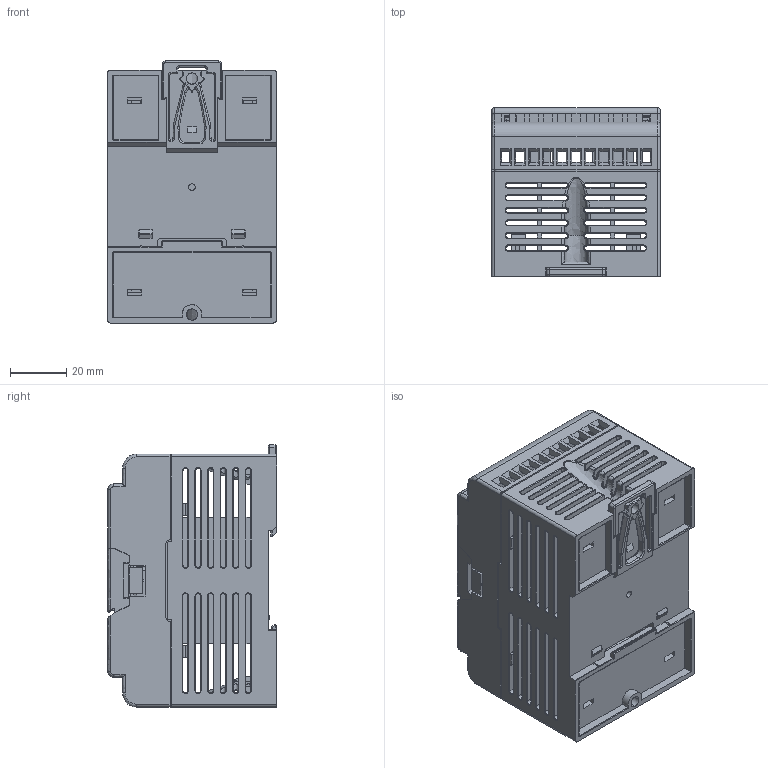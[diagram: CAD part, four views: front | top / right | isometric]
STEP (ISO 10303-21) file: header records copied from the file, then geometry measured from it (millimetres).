
FILE_DESCRIPTION(/* description */ (''),/* implementation_level */ '2;1');
FILE_NAME(/* name */ 'b1-14m-standard-20210609',/* time_stamp */ '2021-12-10T04:11:38+08:00',/* author */ (''),/* organization */ (''),/* preprocessor_version */ 'ST-DEVELOPER v16.5',/* originating_system */ '',/* authorisation */ '');
FILE_SCHEMA (('AUTOMOTIVE_DESIGN'));
Products named in the file (7): Document; B1-14M-DOWN_COVER_ASM; B1-14M-DOWN_COVER; JOIN; CV_PS; B1-14M-IO2_COVER; B1-NEW-14M-UP_COVER
Assembly tree (6 placements, depth 3):
  Document
    B1-14M-DOWN_COVER_ASM
      B1-14M-DOWN_COVER
      JOIN
    CV_PS
    B1-14M-IO2_COVER
    B1-NEW-14M-UP_COVER
Bounding box: 60 x 60.15 x 93.25 mm (x, y, z)
Volume: 52350.2 mm3; surface area: 70778.8 mm2
Topology: 5 solids, 5 shells, 2349 faces, 6624 edges, 4156 vertices
Faces by surface type: plane 1436, bspline 913
Entity records: 97375 total; most frequent: CARTESIAN_POINT 55895, ORIENTED_EDGE 13248, EDGE_CURVE 6624, B_SPLINE_CURVE_WITH_KNOTS 5293, VERTEX_POINT 4156, EDGE_LOOP 2630, ADVANCED_FACE 2349, FACE_OUTER_BOUND 2349
